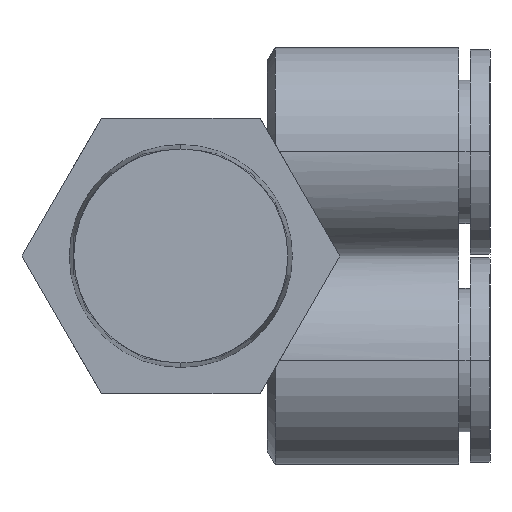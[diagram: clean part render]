
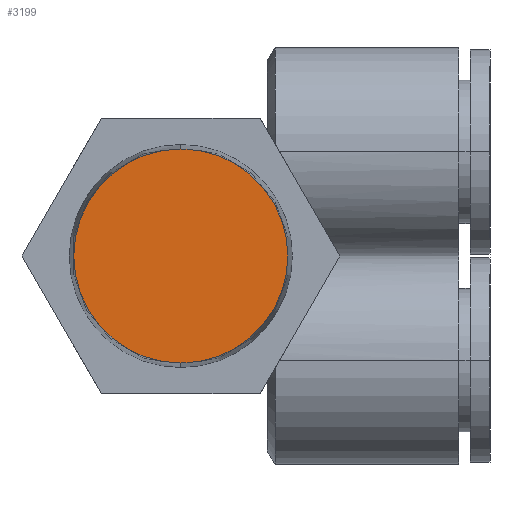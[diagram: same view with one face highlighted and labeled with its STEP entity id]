
A CAD part, front view. The second image highlights one B-rep face of the part: STEP entity #3199.
In plain terms, the highlighted planar face has unit normal (0, -1, 0).
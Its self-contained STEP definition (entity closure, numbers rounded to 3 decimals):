
#109 = VERTEX_POINT ( 'NONE', #569 ) ;
#470 = CARTESIAN_POINT ( 'NONE',  ( 10.5, -5.1, 21. ) ) ;
#503 = CIRCLE ( 'NONE', #2513, 8.172 ) ;
#557 = VERTEX_POINT ( 'NONE', #3202 ) ;
#569 = CARTESIAN_POINT ( 'NONE',  ( 0., -5.1, -8.172 ) ) ;
#725 = PLANE ( 'NONE',  #1501 ) ;
#920 = DIRECTION ( 'NONE',  ( 0., 0., -1. ) ) ;
#1309 = DIRECTION ( 'NONE',  ( 0., -1., 0. ) ) ;
#1394 = ORIENTED_EDGE ( 'NONE', *, *, #2524, .T. ) ;
#1501 = AXIS2_PLACEMENT_3D ( 'NONE', #470, #1309, #2263 ) ;
#1628 = CIRCLE ( 'NONE', #2139, 8.172 ) ;
#1744 = DIRECTION ( 'NONE',  ( 0., 0., -1. ) ) ;
#1947 = CARTESIAN_POINT ( 'NONE',  ( 0., -5.1, 0. ) ) ;
#2127 = EDGE_CURVE ( 'NONE', #109, #557, #503, .T. ) ;
#2139 = AXIS2_PLACEMENT_3D ( 'NONE', #1947, #3155, #1744 ) ;
#2242 = ORIENTED_EDGE ( 'NONE', *, *, #2127, .T. ) ;
#2263 = DIRECTION ( 'NONE',  ( 0., 0., -1. ) ) ;
#2513 = AXIS2_PLACEMENT_3D ( 'NONE', #3862, #2701, #920 ) ;
#2524 = EDGE_CURVE ( 'NONE', #557, #109, #1628, .T. ) ;
#2701 = DIRECTION ( 'NONE',  ( 0., -1., 0. ) ) ;
#2857 = EDGE_LOOP ( 'NONE', ( #1394, #2242 ) ) ;
#3096 = FACE_OUTER_BOUND ( 'NONE', #2857, .T. ) ;
#3155 = DIRECTION ( 'NONE',  ( 0., -1., 0. ) ) ;
#3199 = ADVANCED_FACE ( 'NONE', ( #3096 ), #725, .T. ) ;
#3202 = CARTESIAN_POINT ( 'NONE',  ( 0., -5.1, 8.172 ) ) ;
#3862 = CARTESIAN_POINT ( 'NONE',  ( 0., -5.1, 0. ) ) ;
